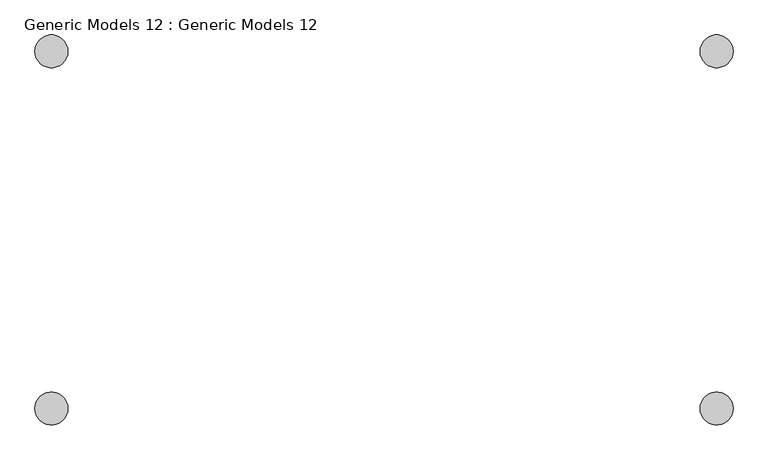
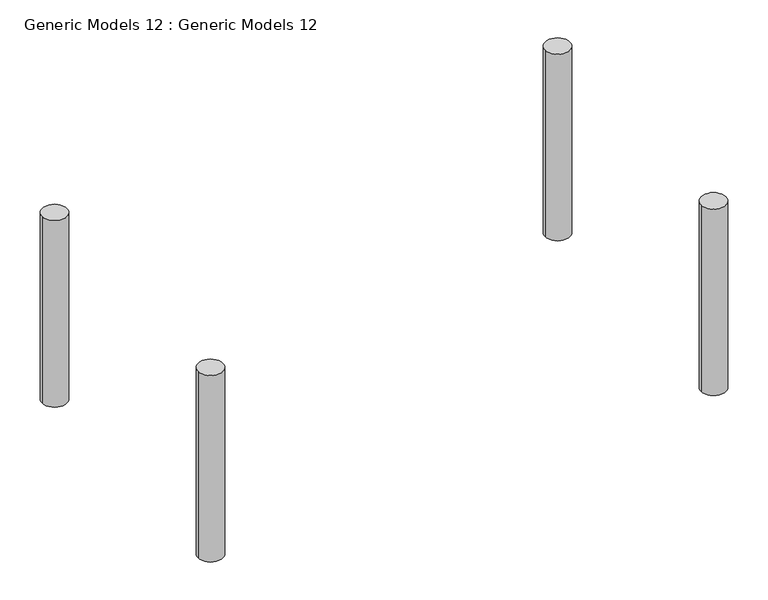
"""IFC4 building model written with IfcOpenShell, lengths in millimetres: proxy geometry, Generic Models 12 : Generic Models 12."""

import ifcopenshell
import ifcopenshell.guid

model = None  # the IFC model being written
_history = None  # IfcOwnerHistory: only IFC2X3 demands one
_inside = {}  # id of a spatial element -> (the spatial element, [elements in it])
_under = {}  # id of a project, library or spatial element -> (it, [spatial elements below it])
_declared = {}  # id of a project -> (the project, [libraries it declares])
_typed = {}  # id of a type object -> (the type object, [elements of that type])
_made_of = {}  # id of a material, layer set ... -> (it, [elements and type objects made of it])


def new_model(schema):
    """Start an empty IFC model of exactly this schema.

    Asked for "IFC4X3", IfcOpenShell would pick the latest addendum, in which some entities
    have other attributes; the version numbers below select the first issue.
    IFC2X3 requires an IfcOwnerHistory on every rooted entity: one is made here for all.
    """
    global model, _history
    if schema == "IFC4X3":
        model = ifcopenshell.file(schema_version=(4, 3, 0, 0))
    else:
        model = ifcopenshell.file(schema=schema)
    _inside.clear()
    _under.clear()
    _declared.clear()
    _typed.clear()
    _made_of.clear()
    _history = None
    if model.schema == "IFC2X3":
        org = make("IfcOrganization", Name="unknown")
        user = make(
            "IfcPersonAndOrganization",
            ThePerson=make("IfcPerson", FamilyName="unknown"),
            TheOrganization=org,
        )
        app = make(
            "IfcApplication",
            ApplicationDeveloper=org,
            Version="unknown",
            ApplicationFullName="unknown",
            ApplicationIdentifier="unknown",
        )
        _history = make(
            "IfcOwnerHistory",
            OwningUser=user,
            OwningApplication=app,
            ChangeAction="ADDED",
            CreationDate=0,
        )
    return model


def make(cls, **values):
    """One entity of the class cls with the attributes given. An attribute that is None is left unset."""
    return model.create_entity(
        cls, **{name: value for name, value in values.items() if value is not None}
    )


def rooted(cls, **values):
    """An entity with a GlobalId (a new one), such as an element, a storey or a relation."""
    return make(cls, GlobalId=ifcopenshell.guid.new(), OwnerHistory=_history, **values)


def si_unit(unit_type, name, prefix=None):
    """IfcSIUnit, for example si_unit("LENGTHUNIT", "METRE", prefix="MILLI")."""
    return make("IfcSIUnit", UnitType=unit_type, Prefix=prefix, Name=name)


def assignment(units):
    """IfcUnitAssignment: the units of a project."""
    return None if units is None else make("IfcUnitAssignment", Units=units)


def point(xyz):
    """IfcCartesianPoint."""
    return None if xyz is None else make("IfcCartesianPoint", Coordinates=xyz)


def direction(xyz):
    """IfcDirection."""
    return None if xyz is None else make("IfcDirection", DirectionRatios=xyz)


def frame(location, z_axis=None, x_axis=None):
    """IfcAxis2Placement3D, a coordinate frame: its origin and axes. An axis left out is left unset."""
    return make(
        "IfcAxis2Placement3D",
        Location=point(location),
        Axis=direction(z_axis),
        RefDirection=direction(x_axis),
    )


def frame_2d(location, x_axis=None):
    """IfcAxis2Placement2D, a coordinate frame in the plane: its origin and x axis."""
    return make(
        "IfcAxis2Placement2D", Location=point(location), RefDirection=direction(x_axis)
    )


def origin():
    """The frame at (0, 0, 0) with its axes left unset."""
    return frame((0.0, 0.0, 0.0))


def place(relative_to, where):
    """IfcLocalPlacement: puts the frame where relative to a parent placement (None: the world)."""
    return make(
        "IfcLocalPlacement", PlacementRelTo=relative_to, RelativePlacement=where
    )


def context(
    kind, dimensions, precision=None, world=None, true_north=None, identifier=None
):
    """IfcGeometricRepresentationContext, for example the 3D "Model" context."""
    return make(
        "IfcGeometricRepresentationContext",
        ContextIdentifier=identifier,
        ContextType=kind,
        CoordinateSpaceDimension=dimensions,
        Precision=precision,
        WorldCoordinateSystem=world,
        TrueNorth=true_north,
    )


def project(units=None, contexts=None):
    """IfcProject with its units and contexts."""
    return rooted(
        "IfcProject",
        Name="project",
        RepresentationContexts=contexts,
        UnitsInContext=assignment(units),
    )


def spatial(cls, under=None, at=None, **own):
    """A site, building, storey or space (cls), placed at a placement, below another one or the project."""
    s = rooted(cls, ObjectPlacement=at, **own)
    if under is not None:
        _under.setdefault(under.id(), (under, []))[1].append(s)
    return s


def circle_curve(where, radius):
    """IfcCircle in the frame where."""
    return make("IfcCircle", Position=where, Radius=radius)


def trimmed(basis, trim1, trim2, sense, master):
    """IfcTrimmedCurve: the piece of a basis curve between two trims."""
    return make(
        "IfcTrimmedCurve",
        BasisCurve=basis,
        Trim1=trim1,
        Trim2=trim2,
        SenseAgreement=sense,
        MasterRepresentation=master,
    )


def segment(curve, same_sense, transition):
    """IfcCompositeCurveSegment."""
    return make(
        "IfcCompositeCurveSegment",
        Transition=transition,
        SameSense=same_sense,
        ParentCurve=curve,
    )


def composite_curve(segments, self_intersect=None):
    """IfcCompositeCurve: segments joined end to end."""
    return make("IfcCompositeCurve", Segments=segments, SelfIntersect=self_intersect)


def outline(outer, holes=None, kind="AREA"):
    """IfcArbitraryClosedProfileDef: a profile drawn as a closed curve; with holes, ...WithVoids."""
    if holes is None:
        return make("IfcArbitraryClosedProfileDef", ProfileType=kind, OuterCurve=outer)
    return make(
        "IfcArbitraryProfileDefWithVoids",
        ProfileType=kind,
        OuterCurve=outer,
        InnerCurves=holes,
    )


def extrude(swept, where, along, depth):
    """IfcExtrudedAreaSolid: the profile swept, set in the frame where, extruded along a direction by depth."""
    return make(
        "IfcExtrudedAreaSolid",
        SweptArea=swept,
        Position=where,
        ExtrudedDirection=direction(along),
        Depth=depth,
    )


def shape(context_of_items, identifier, shape_type, items):
    """IfcShapeRepresentation: the items that make up one representation, for example the "Body"."""
    return make(
        "IfcShapeRepresentation",
        ContextOfItems=context_of_items,
        RepresentationIdentifier=identifier,
        RepresentationType=shape_type,
        Items=items,
    )


def source(mapping_origin, context_of_items, identifier, shape_type, items):
    """IfcRepresentationMap: a shape defined once, which mapped items show again and again."""
    return make(
        "IfcRepresentationMap",
        MappingOrigin=mapping_origin,
        MappedRepresentation=shape(context_of_items, identifier, shape_type, items),
    )


def transform(
    local_origin,
    x_axis=None,
    y_axis=None,
    z_axis=None,
    scale=None,
    scale2=None,
    scale3=None,
    uniform=True,
):
    """IfcCartesianTransformationOperator3D, or its non-uniform kind. x_axis, y_axis, z_axis: its Axis1, 2, 3."""
    if uniform:
        return make(
            "IfcCartesianTransformationOperator3D",
            Axis1=direction(x_axis),
            Axis2=direction(y_axis),
            LocalOrigin=point(local_origin),
            Scale=scale,
            Axis3=direction(z_axis),
        )
    return make(
        "IfcCartesianTransformationOperator3DnonUniform",
        Axis1=direction(x_axis),
        Axis2=direction(y_axis),
        LocalOrigin=point(local_origin),
        Scale=scale,
        Axis3=direction(z_axis),
        Scale2=scale2,
        Scale3=scale3,
    )


def mapped(mapping_source, mapping_target):
    """IfcMappedItem: shows the shape of a source again, moved by a transform."""
    return make(
        "IfcMappedItem", MappingSource=mapping_source, MappingTarget=mapping_target
    )


def made_of(thing, what):
    """Note that an element or type object is made of a material, layer set ...; save() writes the relation."""
    if what is not None:
        _made_of.setdefault(what.id(), (what, []))[1].append(thing)
    return thing


def element(
    cls,
    number,
    at=None,
    inside=None,
    cuts=None,
    type_object=None,
    material=None,
    context=None,
    identifier="Body",
    shape_type=None,
    held_by="IfcProductDefinitionShape",
    body=None,
    shapes=None,
    **own,
):
    """One element of the class cls, such as IfcWall. Its Tag is "e" and its number.

    at: its placement. inside: the storey or other place that contains it. cuts: it is an
    opening in that element (IfcRelVoidsElement). A single representation is given by context,
    identifier, shape_type and body (its items); several are given by shapes. held_by: the class
    of the entity that holds the representations. save() writes the other relations.
    """
    e = rooted(cls, Tag="e%d" % number, ObjectPlacement=at, **own)
    if body is not None:
        shapes = [shape(context, identifier, shape_type, body)]
    if shapes is not None:
        e.Representation = make(held_by, Representations=shapes)
    if inside is not None:
        _inside.setdefault(inside.id(), (inside, []))[1].append(e)
    if cuts is not None:
        rooted(
            "IfcRelVoidsElement", RelatingBuildingElement=cuts, RelatedOpeningElement=e
        )
    if type_object is not None:
        _typed.setdefault(type_object.id(), (type_object, []))[1].append(e)
    return made_of(e, material)


def aggregate(whole, parts):
    """IfcRelAggregates: a whole, such as a stair, and the parts it consists of."""
    return rooted("IfcRelAggregates", RelatingObject=whole, RelatedObjects=parts)


def save(model, path):
    """Write the relations noted so far, then the file.

    IfcRelAggregates (storeys below a building ...), IfcRelContainedInSpatialStructure (elements
    in a storey), IfcRelDefinesByType, IfcRelAssociatesMaterial and IfcRelDeclares: one each for
    every whole, place, type object, material and project.
    """
    for whole, parts in _under.values():
        aggregate(whole, parts)
    for where, things in _inside.values():
        rooted(
            "IfcRelContainedInSpatialStructure",
            RelatedElements=things,
            RelatingStructure=where,
        )
    for kind, things in _typed.values():
        rooted("IfcRelDefinesByType", RelatedObjects=things, RelatingType=kind)
    for what, things in _made_of.values():
        rooted("IfcRelAssociatesMaterial", RelatedObjects=things, RelatingMaterial=what)
    for by, libraries in _declared.values():
        rooted("IfcRelDeclares", RelatingContext=by, RelatedDefinitions=libraries)
    model.write(path)


def generic_models_12_generic_models_12_6ada49b7(model_context):
    return source(origin(), model_context, "Body", "SweptSolid", [
        extrude(outline(composite_curve([segment(trimmed(circle_curve(frame_2d((40845.8500255, 29007.7376567)), 120.0), [point((40725.8500255, 29007.7376567))], [point((40965.8500255, 29007.7376567))], False, "CARTESIAN"), True, "CONTINUOUS"), segment(trimmed(circle_curve(frame_2d((40845.8500255, 29007.7376567)), 120.0), [point((40965.8500255, 29007.7376567))], [point((40725.8500255, 29007.7376567))], False, "CARTESIAN"), True, "CONTINUOUS")], self_intersect=False)), frame((0.0, 0.0, 3917.6777234), z_axis=(0.0, 0.0, 1.0), x_axis=(1.0, 0.0, 0.0)), (0.0, 0.0, 1.0), 1900.0),
        extrude(outline(composite_curve([segment(trimmed(circle_curve(frame_2d((40845.8500255, 31608.351774)), 120.0), [point((40725.8500255, 31608.351774))], [point((40965.8500255, 31608.351774))], False, "CARTESIAN"), True, "CONTINUOUS"), segment(trimmed(circle_curve(frame_2d((40845.8500255, 31608.351774)), 120.0), [point((40965.8500255, 31608.351774))], [point((40725.8500255, 31608.351774))], False, "CARTESIAN"), True, "CONTINUOUS")], self_intersect=False)), frame((0.0, 0.0, 3917.6777234), z_axis=(0.0, 0.0, 1.0), x_axis=(1.0, 0.0, 0.0)), (0.0, 0.0, 1.0), 1900.0),
        extrude(outline(composite_curve([segment(trimmed(circle_curve(frame_2d((36002.5265617, 31608.351774)), 120.0), [point((35882.5265617, 31608.351774))], [point((36122.5265617, 31608.351774))], False, "CARTESIAN"), True, "CONTINUOUS"), segment(trimmed(circle_curve(frame_2d((36002.5265617, 31608.351774)), 120.0), [point((36122.5265617, 31608.351774))], [point((35882.5265617, 31608.351774))], False, "CARTESIAN"), True, "CONTINUOUS")], self_intersect=False)), frame((0.0, 0.0, 3917.6777234), z_axis=(0.0, 0.0, 1.0), x_axis=(1.0, 0.0, 0.0)), (0.0, 0.0, 1.0), 1900.0),
        extrude(outline(composite_curve([segment(trimmed(circle_curve(frame_2d((36002.5265617, 29007.7376567)), 120.0), [point((35882.5265617, 29007.7376567))], [point((36122.5265617, 29007.7376567))], False, "CARTESIAN"), True, "CONTINUOUS"), segment(trimmed(circle_curve(frame_2d((36002.5265617, 29007.7376567)), 120.0), [point((36122.5265617, 29007.7376567))], [point((35882.5265617, 29007.7376567))], False, "CARTESIAN"), True, "CONTINUOUS")], self_intersect=False)), frame((0.0, 0.0, 3917.6777234), z_axis=(0.0, 0.0, 1.0), x_axis=(1.0, 0.0, 0.0)), (0.0, 0.0, 1.0), 1900.0),
    ])


if __name__ == "__main__":
    model = new_model("IFC4")
    model_context = context("Model", 3, world=origin())
    ifc_project = project(units=[si_unit("LENGTHUNIT", "METRE", prefix="MILLI")], contexts=[model_context])
    site = spatial("IfcSite", under=ifc_project)
    building = spatial("IfcBuilding", under=site)
    placement = place(None, origin())
    generic_models_12_generic_models_12_shape = generic_models_12_generic_models_12_6ada49b7(model_context)
    element("IfcBuildingElementProxy", 1, Name="Generic Models 12 : Generic Models 12", ObjectType="Generic Models 12 : Generic Models 12", at=placement, inside=building, context=model_context, shape_type="MappedRepresentation", body=[
        mapped(generic_models_12_generic_models_12_shape, transform((0.0, 0.0, 0.0), x_axis=(1.0, 0.0, 0.0), y_axis=(0.0, 1.0, 0.0), z_axis=(0.0, 0.0, 1.0))),
    ])
    save(model, "model.ifc")
